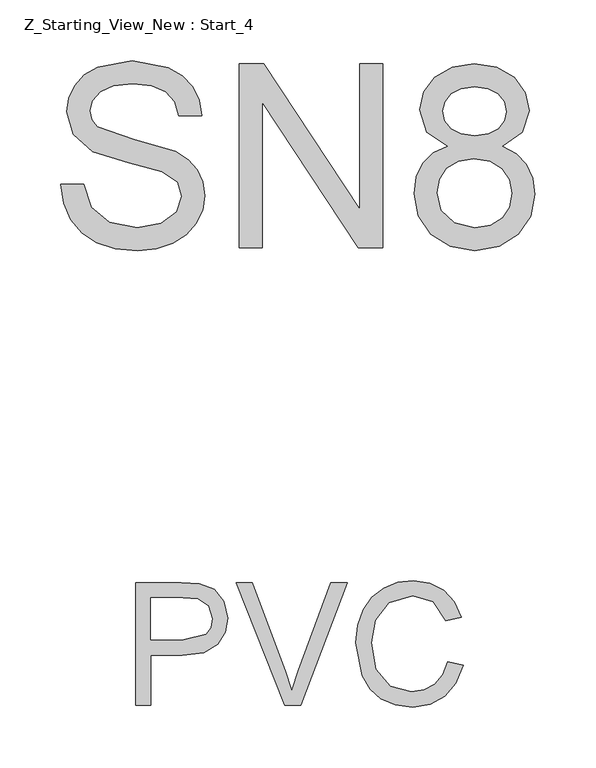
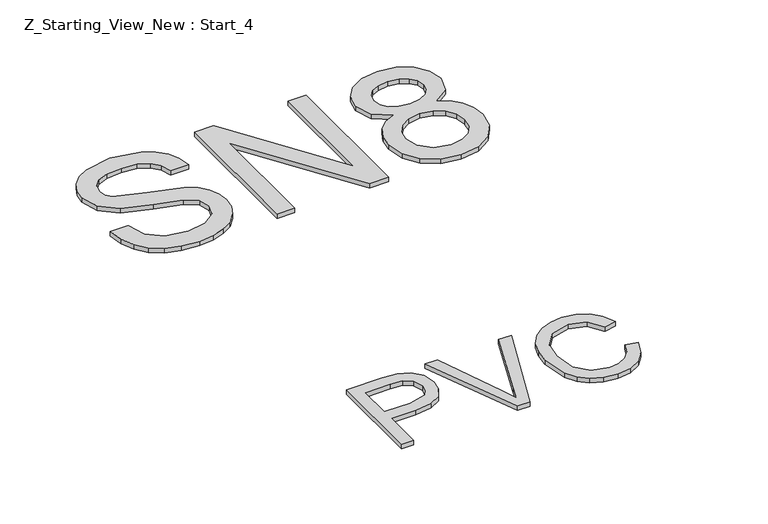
"""IFC4 building model written with IfcOpenShell, lengths in millimetres: pipe fitting geometry, Z_Starting_View_New : Start_4."""

import ifcopenshell
import ifcopenshell.guid

model = None  # the IFC model being written
_history = None  # IfcOwnerHistory: only IFC2X3 demands one
_inside = {}  # id of a spatial element -> (the spatial element, [elements in it])
_under = {}  # id of a project, library or spatial element -> (it, [spatial elements below it])
_declared = {}  # id of a project -> (the project, [libraries it declares])
_typed = {}  # id of a type object -> (the type object, [elements of that type])
_made_of = {}  # id of a material, layer set ... -> (it, [elements and type objects made of it])


def new_model(schema):
    """Start an empty IFC model of exactly this schema.

    Asked for "IFC4X3", IfcOpenShell would pick the latest addendum, in which some entities
    have other attributes; the version numbers below select the first issue.
    IFC2X3 requires an IfcOwnerHistory on every rooted entity: one is made here for all.
    """
    global model, _history
    if schema == "IFC4X3":
        model = ifcopenshell.file(schema_version=(4, 3, 0, 0))
    else:
        model = ifcopenshell.file(schema=schema)
    _inside.clear()
    _under.clear()
    _declared.clear()
    _typed.clear()
    _made_of.clear()
    _history = None
    if model.schema == "IFC2X3":
        org = make("IfcOrganization", Name="unknown")
        user = make(
            "IfcPersonAndOrganization",
            ThePerson=make("IfcPerson", FamilyName="unknown"),
            TheOrganization=org,
        )
        app = make(
            "IfcApplication",
            ApplicationDeveloper=org,
            Version="unknown",
            ApplicationFullName="unknown",
            ApplicationIdentifier="unknown",
        )
        _history = make(
            "IfcOwnerHistory",
            OwningUser=user,
            OwningApplication=app,
            ChangeAction="ADDED",
            CreationDate=0,
        )
    return model


def make(cls, **values):
    """One entity of the class cls with the attributes given. An attribute that is None is left unset."""
    return model.create_entity(
        cls, **{name: value for name, value in values.items() if value is not None}
    )


def rooted(cls, **values):
    """An entity with a GlobalId (a new one), such as an element, a storey or a relation."""
    return make(cls, GlobalId=ifcopenshell.guid.new(), OwnerHistory=_history, **values)


def si_unit(unit_type, name, prefix=None):
    """IfcSIUnit, for example si_unit("LENGTHUNIT", "METRE", prefix="MILLI")."""
    return make("IfcSIUnit", UnitType=unit_type, Prefix=prefix, Name=name)


def assignment(units):
    """IfcUnitAssignment: the units of a project."""
    return None if units is None else make("IfcUnitAssignment", Units=units)


def point(xyz):
    """IfcCartesianPoint."""
    return None if xyz is None else make("IfcCartesianPoint", Coordinates=xyz)


def direction(xyz):
    """IfcDirection."""
    return None if xyz is None else make("IfcDirection", DirectionRatios=xyz)


def frame(location, z_axis=None, x_axis=None):
    """IfcAxis2Placement3D, a coordinate frame: its origin and axes. An axis left out is left unset."""
    return make(
        "IfcAxis2Placement3D",
        Location=point(location),
        Axis=direction(z_axis),
        RefDirection=direction(x_axis),
    )


def origin():
    """The frame at (0, 0, 0) with its axes left unset."""
    return frame((0.0, 0.0, 0.0))


def origin_with_axes():
    """The frame at (0, 0, 0) with the z axis (0, 0, 1) and the x axis (1, 0, 0) written out."""
    return frame((0.0, 0.0, 0.0), z_axis=(0.0, 0.0, 1.0), x_axis=(1.0, 0.0, 0.0))


def place(relative_to, where):
    """IfcLocalPlacement: puts the frame where relative to a parent placement (None: the world)."""
    return make(
        "IfcLocalPlacement", PlacementRelTo=relative_to, RelativePlacement=where
    )


def context(
    kind, dimensions, precision=None, world=None, true_north=None, identifier=None
):
    """IfcGeometricRepresentationContext, for example the 3D "Model" context."""
    return make(
        "IfcGeometricRepresentationContext",
        ContextIdentifier=identifier,
        ContextType=kind,
        CoordinateSpaceDimension=dimensions,
        Precision=precision,
        WorldCoordinateSystem=world,
        TrueNorth=true_north,
    )


def project(units=None, contexts=None):
    """IfcProject with its units and contexts."""
    return rooted(
        "IfcProject",
        Name="project",
        RepresentationContexts=contexts,
        UnitsInContext=assignment(units),
    )


def spatial(cls, under=None, at=None, **own):
    """A site, building, storey or space (cls), placed at a placement, below another one or the project."""
    s = rooted(cls, ObjectPlacement=at, **own)
    if under is not None:
        _under.setdefault(under.id(), (under, []))[1].append(s)
    return s


def polyline(points):
    """IfcPolyline through the points."""
    return make("IfcPolyline", Points=[point(p) for p in points])


def outline(outer, holes=None, kind="AREA"):
    """IfcArbitraryClosedProfileDef: a profile drawn as a closed curve; with holes, ...WithVoids."""
    if holes is None:
        return make("IfcArbitraryClosedProfileDef", ProfileType=kind, OuterCurve=outer)
    return make(
        "IfcArbitraryProfileDefWithVoids",
        ProfileType=kind,
        OuterCurve=outer,
        InnerCurves=holes,
    )


def extrude(swept, where, along, depth):
    """IfcExtrudedAreaSolid: the profile swept, set in the frame where, extruded along a direction by depth."""
    return make(
        "IfcExtrudedAreaSolid",
        SweptArea=swept,
        Position=where,
        ExtrudedDirection=direction(along),
        Depth=depth,
    )


def shape(context_of_items, identifier, shape_type, items):
    """IfcShapeRepresentation: the items that make up one representation, for example the "Body"."""
    return make(
        "IfcShapeRepresentation",
        ContextOfItems=context_of_items,
        RepresentationIdentifier=identifier,
        RepresentationType=shape_type,
        Items=items,
    )


def source(mapping_origin, context_of_items, identifier, shape_type, items):
    """IfcRepresentationMap: a shape defined once, which mapped items show again and again."""
    return make(
        "IfcRepresentationMap",
        MappingOrigin=mapping_origin,
        MappedRepresentation=shape(context_of_items, identifier, shape_type, items),
    )


def transform(
    local_origin,
    x_axis=None,
    y_axis=None,
    z_axis=None,
    scale=None,
    scale2=None,
    scale3=None,
    uniform=True,
):
    """IfcCartesianTransformationOperator3D, or its non-uniform kind. x_axis, y_axis, z_axis: its Axis1, 2, 3."""
    if uniform:
        return make(
            "IfcCartesianTransformationOperator3D",
            Axis1=direction(x_axis),
            Axis2=direction(y_axis),
            LocalOrigin=point(local_origin),
            Scale=scale,
            Axis3=direction(z_axis),
        )
    return make(
        "IfcCartesianTransformationOperator3DnonUniform",
        Axis1=direction(x_axis),
        Axis2=direction(y_axis),
        LocalOrigin=point(local_origin),
        Scale=scale,
        Axis3=direction(z_axis),
        Scale2=scale2,
        Scale3=scale3,
    )


def mapped(mapping_source, mapping_target):
    """IfcMappedItem: shows the shape of a source again, moved by a transform."""
    return make(
        "IfcMappedItem", MappingSource=mapping_source, MappingTarget=mapping_target
    )


def made_of(thing, what):
    """Note that an element or type object is made of a material, layer set ...; save() writes the relation."""
    if what is not None:
        _made_of.setdefault(what.id(), (what, []))[1].append(thing)
    return thing


def element(
    cls,
    number,
    at=None,
    inside=None,
    cuts=None,
    type_object=None,
    material=None,
    context=None,
    identifier="Body",
    shape_type=None,
    held_by="IfcProductDefinitionShape",
    body=None,
    shapes=None,
    **own,
):
    """One element of the class cls, such as IfcWall. Its Tag is "e" and its number.

    at: its placement. inside: the storey or other place that contains it. cuts: it is an
    opening in that element (IfcRelVoidsElement). A single representation is given by context,
    identifier, shape_type and body (its items); several are given by shapes. held_by: the class
    of the entity that holds the representations. save() writes the other relations.
    """
    e = rooted(cls, Tag="e%d" % number, ObjectPlacement=at, **own)
    if body is not None:
        shapes = [shape(context, identifier, shape_type, body)]
    if shapes is not None:
        e.Representation = make(held_by, Representations=shapes)
    if inside is not None:
        _inside.setdefault(inside.id(), (inside, []))[1].append(e)
    if cuts is not None:
        rooted(
            "IfcRelVoidsElement", RelatingBuildingElement=cuts, RelatedOpeningElement=e
        )
    if type_object is not None:
        _typed.setdefault(type_object.id(), (type_object, []))[1].append(e)
    return made_of(e, material)


def aggregate(whole, parts):
    """IfcRelAggregates: a whole, such as a stair, and the parts it consists of."""
    return rooted("IfcRelAggregates", RelatingObject=whole, RelatedObjects=parts)


def save(model, path):
    """Write the relations noted so far, then the file.

    IfcRelAggregates (storeys below a building ...), IfcRelContainedInSpatialStructure (elements
    in a storey), IfcRelDefinesByType, IfcRelAssociatesMaterial and IfcRelDeclares: one each for
    every whole, place, type object, material and project.
    """
    for whole, parts in _under.values():
        aggregate(whole, parts)
    for where, things in _inside.values():
        rooted(
            "IfcRelContainedInSpatialStructure",
            RelatedElements=things,
            RelatingStructure=where,
        )
    for kind, things in _typed.values():
        rooted("IfcRelDefinesByType", RelatedObjects=things, RelatingType=kind)
    for what, things in _made_of.values():
        rooted("IfcRelAssociatesMaterial", RelatedObjects=things, RelatingMaterial=what)
    for by, libraries in _declared.values():
        rooted("IfcRelDeclares", RelatingContext=by, RelatedDefinitions=libraries)
    model.write(path)


def z_starting_view_new_start_4_d6632d80(model_context):
    return source(origin(), model_context, "Body", "SweptSolid", [
        extrude(outline(polyline([(22541.0675261, 7497.5835152), (22559.9030842, 7497.5835152), (22565.9731371, 7478.7295629), (22580.7987815, 7466.8101863), (22603.386736, 7462.2668436), (22623.0684228, 7465.7065403), (22635.7787457, 7475.1611076), (22639.9542064, 7487.7978541), (22636.8272094, 7499.5516839), (22624.024916, 7508.1049402), (22596.5993132, 7515.2970333), (22567.0767831, 7524.5860536), (22551.0555222, 7538.6023576), (22545.7764156, 7557.3275512), (22547.4088919, 7568.3594125), (22552.306321, 7578.6463128), (22560.3399441, 7587.3651161), (22571.3810025, 7593.6926864), (22599.3032459, 7598.8246403), (22629.1016875, 7593.4535631), (22640.5244235, 7586.8224902), (22648.9673152, 7577.6714255), (22654.3108012, 7566.5705863), (22656.4353197, 7554.0901896), (22637.5997616, 7554.0901896), (22634.1416708, 7565.3289846), (22626.9311837, 7573.4407826), (22615.6647976, 7578.3520072), (22600.0390099, 7579.9890821), (22584.0453401, 7578.3704013), (22573.0732596, 7573.514359), (22566.7272952, 7566.3682512), (22564.6119737, 7557.8793742), (22566.1110929, 7550.6412959), (22570.6084503, 7544.8195634), (22601.3633851, 7534.2981383), (22634.6934938, 7524.843571), (22645.4310496, 7518.010163), (22652.9220467, 7509.5764682), (22657.3228351, 7499.6344573), (22658.7897645, 7488.2761007), (22657.1021059, 7476.6648252), (22652.0391299, 7465.7433285), (22643.8077703, 7456.3439435), (22632.6149606, 7449.2990033), (22619.1550781, 7444.898215), (22604.1225, 7443.4312855), (22585.6686194, 7445.0131781), (22570.4796916, 7449.7588558), (22558.3809725, 7457.6867128), (22549.1977181, 7468.8151432), (22543.3024092, 7482.3715947), (22541.0675261, 7497.5835152)])), origin_with_axes(), (0.0, 0.0, 1.0), 5.0),
        extrude(outline(polyline([(22687.0431017, 7445.7857303), (22687.0431017, 7596.4701955), (22707.2030351, 7596.4701955), (22785.929782, 7477.0924881), (22785.929782, 7596.4701955), (22804.7653402, 7596.4701955), (22804.7653402, 7445.7857303), (22784.6054069, 7445.7857303), (22705.8786599, 7565.2002259), (22705.8786599, 7445.7857303), (22687.0431017, 7445.7857303)])), origin_with_axes(), (0.0, 0.0, 1.0), 5.0),
        extrude(outline(polyline([(22858.1082295, 7528.7799084), (22840.9465344, 7540.4785558), (22835.3731222, 7558.6887146), (22838.4081487, 7573.4131914), (22847.513228, 7585.5808884), (22861.6674878, 7593.7478687), (22879.8500554, 7596.4701955), (22898.1429876, 7593.6834894), (22912.4811884, 7585.323371), (22921.7518147, 7572.962536), (22924.8420234, 7558.1736798), (22919.3421876, 7540.4233735), (22902.6587391, 7528.7799084), (22914.2516205, 7522.8064245), (22922.6899138, 7514.0094463), (22927.8356632, 7502.812038), (22929.550913, 7489.6372641), (22926.1480045, 7471.6294404), (22915.9392791, 7456.7486137), (22900.1755356, 7446.7606176), (22880.1075728, 7443.4312855), (22860.03961, 7446.7744131), (22844.2758665, 7456.803796), (22834.0671411, 7471.827177), (22830.6642327, 7490.1522989), (22832.4484603, 7503.8375091), (22837.8011434, 7515.0946982), (22846.4463703, 7523.5375899), (22858.1082295, 7528.7799084)]), holes=[polyline([(22854.2086804, 7558.1368916), (22855.8779449, 7549.914729), (22860.8857386, 7543.3480354), (22869.0849085, 7539.043816), (22880.328302, 7537.6090763), (22891.3095796, 7539.034619), (22899.3845894, 7543.3112472), (22904.3509963, 7549.6572116), (22906.0064653, 7557.290763), (22904.295814, 7565.2140215), (22899.1638602, 7571.7669195), (22890.9784858, 7576.1677079), (22880.1075728, 7577.6346373), (22869.167682, 7576.1998976), (22860.9961032, 7571.8956782), (22855.9055361, 7565.586502), (22854.2086804, 7558.1368916)]), polyline([(22849.4997908, 7490.8144865), (22852.6451819, 7476.6326356), (22863.7736122, 7466.01924), (22880.2547256, 7462.2668436), (22893.0754131, 7464.2396108), (22902.6955273, 7470.1579124), (22908.7103979, 7479.1204376), (22910.7153548, 7490.2258753), (22908.6460186, 7501.5198525), (22902.4380099, 7510.6801142), (22892.5971665, 7516.7501671), (22879.6293262, 7518.7735181), (22866.9879812, 7516.7777583), (22857.464436, 7510.7904788), (22851.4909521, 7501.8049611), (22849.4997908, 7490.8144865)])]), origin_with_axes(), (0.0, 0.0, 1.0), 5.0),
        extrude(outline(polyline([(22602.2830901, 7070.7857303), (22602.2830901, 7171.2420404), (22639.512748, 7171.2420404), (22654.5223334, 7170.2855472), (22666.7237529, 7165.5889204), (22674.6332158, 7155.8768358), (22677.6253227, 7142.1793628), (22675.6050374, 7130.3396939), (22669.5441815, 7120.4743251), (22658.2103504, 7113.815661), (22640.3711393, 7111.5961063), (22614.8401288, 7111.5961063), (22614.8401288, 7070.7857303), (22602.2830901, 7070.7857303)]), holes=[polyline([(22614.8401288, 7124.153145), (22641.1069033, 7124.153145), (22659.5991049, 7128.7639327), (22663.7009891, 7134.3128195), (22665.0682839, 7141.7379044), (22661.8431851, 7152.1367021), (22653.3696365, 7157.8266103), (22640.8125977, 7158.6850016), (22614.8401288, 7158.6850016), (22614.8401288, 7124.153145)])]), origin_with_axes(), (0.0, 0.0, 1.0), 5.0),
        extrude(outline(polyline([(22724.5670652, 7070.7857303), (22684.5905551, 7171.2420404), (22698.0305107, 7171.2420404), (22724.7877944, 7098.8673892), (22730.2079225, 7082.5579541), (22735.5544742, 7098.8673892), (22762.3853344, 7171.2420404), (22775.8252899, 7171.2420404), (22737.5410369, 7070.7857303), (22724.5670652, 7070.7857303)])), origin_with_axes(), (0.0, 0.0, 1.0), 5.0),
        extrude(outline(polyline([(22858.132755, 7106.4948093), (22870.6897937, 7103.2574477), (22864.8956523, 7088.6249413), (22855.8028357, 7077.9349037), (22843.8589336, 7071.3958012), (22829.5115357, 7069.2161004), (22814.9464744, 7070.865438), (22803.3796513, 7075.8134509), (22794.5136953, 7083.8884607), (22788.0512349, 7094.9187891), (22782.7905224, 7121.7741748), (22784.2773788, 7136.4220096), (22788.7379479, 7149.0710188), (22795.939238, 7159.3195981), (22805.648257, 7166.7661428), (22817.1629634, 7171.3002884), (22829.7813159, 7172.8116703), (22843.5492995, 7170.8557643), (22854.9321816, 7164.9880465), (22863.5743428, 7155.5702674), (22869.1201639, 7142.9641777), (22856.5631251, 7139.9720708), (22846.2624293, 7155.4108519), (22829.2908065, 7160.2546315), (22809.645908, 7154.8835544), (22798.5481345, 7140.4625802), (22795.3475611, 7121.7987003), (22799.1367457, 7100.1672389), (22810.933495, 7086.3471387), (22828.260737, 7081.7731392), (22838.7423081, 7083.3305063), (22847.4764398, 7088.0026076), (22854.0707246, 7095.7403923), (22858.132755, 7106.4948093)])), origin_with_axes(), (0.0, 0.0, 1.0), 5.0),
        extrude(outline(polyline([(22602.2830901, 7070.7857303), (22602.2830901, 7171.2420404), (22639.512748, 7171.2420404), (22654.5223334, 7170.2855472), (22666.7237529, 7165.5889204), (22674.6332158, 7155.8768358), (22677.6253227, 7142.1793628), (22675.6050374, 7130.3396939), (22669.5441815, 7120.4743251), (22658.2103504, 7113.815661), (22640.3711393, 7111.5961063), (22614.8401288, 7111.5961063), (22614.8401288, 7070.7857303), (22602.2830901, 7070.7857303)]), holes=[polyline([(22614.8401288, 7124.153145), (22641.1069033, 7124.153145), (22659.5991049, 7128.7639327), (22663.7009891, 7134.3128195), (22665.0682839, 7141.7379044), (22661.8431851, 7152.1367021), (22653.3696365, 7157.8266103), (22640.8125977, 7158.6850016), (22614.8401288, 7158.6850016), (22614.8401288, 7124.153145)])]), origin_with_axes(), (0.0, 0.0, 1.0), 5.0),
        extrude(outline(polyline([(22724.5670652, 7070.7857303), (22684.5905551, 7171.2420404), (22698.0305107, 7171.2420404), (22724.7877944, 7098.8673892), (22730.2079225, 7082.5579541), (22735.5544742, 7098.8673892), (22762.3853344, 7171.2420404), (22775.8252899, 7171.2420404), (22737.5410369, 7070.7857303), (22724.5670652, 7070.7857303)])), origin_with_axes(), (0.0, 0.0, 1.0), 5.0),
        extrude(outline(polyline([(22858.132755, 7106.4948093), (22870.6897937, 7103.2574477), (22864.8956523, 7088.6249413), (22855.8028357, 7077.9349037), (22843.8589336, 7071.3958012), (22829.5115357, 7069.2161004), (22814.9464744, 7070.865438), (22803.3796513, 7075.8134509), (22794.5136953, 7083.8884607), (22788.0512349, 7094.9187891), (22782.7905224, 7121.7741748), (22784.2773788, 7136.4220096), (22788.7379479, 7149.0710188), (22795.939238, 7159.3195981), (22805.648257, 7166.7661428), (22817.1629634, 7171.3002884), (22829.7813159, 7172.8116703), (22843.5492995, 7170.8557643), (22854.9321816, 7164.9880465), (22863.5743428, 7155.5702674), (22869.1201639, 7142.9641777), (22856.5631251, 7139.9720708), (22846.2624293, 7155.4108519), (22829.2908065, 7160.2546315), (22809.645908, 7154.8835544), (22798.5481345, 7140.4625802), (22795.3475611, 7121.7987003), (22799.1367457, 7100.1672389), (22810.933495, 7086.3471387), (22828.260737, 7081.7731392), (22838.7423081, 7083.3305063), (22847.4764398, 7088.0026076), (22854.0707246, 7095.7403923), (22858.132755, 7106.4948093)])), origin_with_axes(), (0.0, 0.0, 1.0), 5.0),
    ])


if __name__ == "__main__":
    model = new_model("IFC4")
    model_context = context("Model", 3, world=origin())
    ifc_project = project(units=[si_unit("LENGTHUNIT", "METRE", prefix="MILLI")], contexts=[model_context])
    site = spatial("IfcSite", under=ifc_project)
    building = spatial("IfcBuilding", under=site)
    placement = place(None, origin())
    z_starting_view_new_start_4_shape = z_starting_view_new_start_4_d6632d80(model_context)
    element("IfcPipeFitting", 1, ObjectType="Z_Starting_View_New : Start_4", at=placement, inside=building, context=model_context, shape_type="MappedRepresentation", body=[
        mapped(z_starting_view_new_start_4_shape, transform((0.0, 0.0, 0.0), x_axis=(1.0, 0.0, 0.0), y_axis=(0.0, 1.0, 0.0), z_axis=(0.0, 0.0, 1.0))),
    ])
    save(model, "model.ifc")
